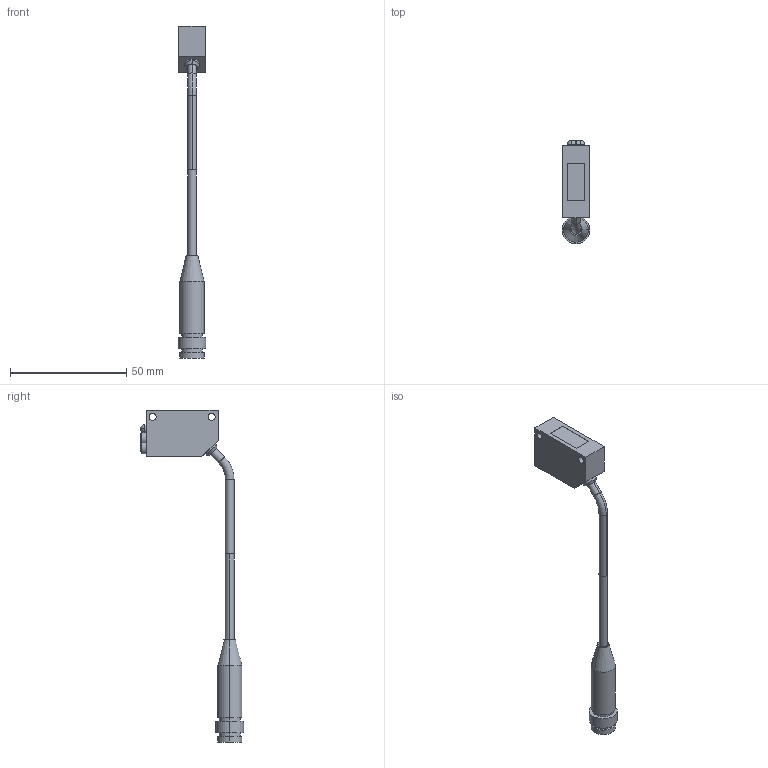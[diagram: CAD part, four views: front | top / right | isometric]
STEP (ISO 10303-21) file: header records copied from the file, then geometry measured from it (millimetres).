
FILE_DESCRIPTION (( 'STEP AP203' ), '1' );
FILE_NAME ('CX-491-J.STEP', '2005-09-05T03:58:36', ( '川島良英' ), ( ' ' ), 'SwSTEP 2.0', 'SolidWorks 2004251', '' );
FILE_SCHEMA (( 'CONFIG_CONTROL_DESIGN' ));
Length unit declared in the file: millimetre
Products named in the file (1): CX-491-J
Bounding box: 12 x 44.5 x 143 mm (x, y, z)
Volume: 11055.1 mm3; surface area: 5187.9 mm2
Topology: 2 solids, 2 shells, 87 faces, 201 edges, 126 vertices
Faces by surface type: cylinder 41, plane 36, sphere 4, cone 4, torus 2
Entity records: 2554 total; most frequent: DIRECTION 461, CARTESIAN_POINT 434, ORIENTED_EDGE 394, EDGE_CURVE 197, AXIS2_PLACEMENT_3D 179, VERTEX_POINT 126, LINE 103, VECTOR 103
